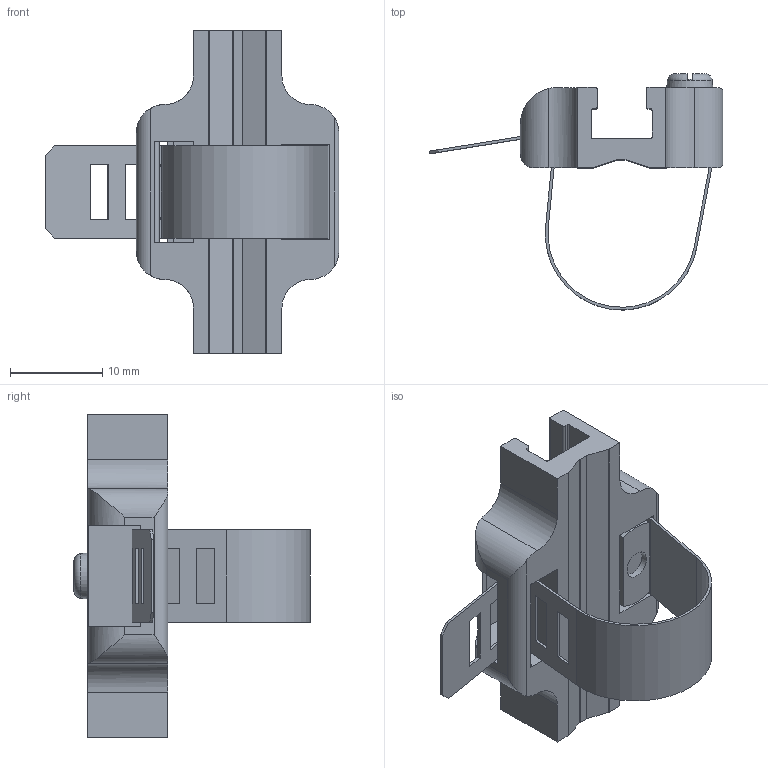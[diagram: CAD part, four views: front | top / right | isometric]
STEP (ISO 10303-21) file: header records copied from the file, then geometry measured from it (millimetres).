
FILE_DESCRIPTION( ( 'STEP AP214' ), ' ' );
FILE_NAME( 'p:/temp/worker_17/3336_884/app_42_02017120212580399745847192d056f_000000_00_00_000000/format_0/SICK BEF-KHZ-RT1-130-1-Bestell-Nr.2077684 (16).stp', '2017-12-02T11:58:04', ( '' ), ( '' ), ' ', 'PARTsolutions', ' ' );
FILE_SCHEMA( ( 'AUTOMOTIVE_DESIGN { 1 0 10303 214 1 1 1 1 }' ) );
Length unit declared in the file: millimetre
Products named in the file (1): _SICK BEF-KHZ-RT1-130-1-Bestell-Nr.2077684 (16)
Bounding box: 31.92 x 25.65 x 35 mm (x, y, z)
Volume: 3026.8 mm3; surface area: 4185.6 mm2
Topology: 1 solids, 1 shells, 134 faces, 381 edges, 252 vertices
Faces by surface type: plane 87, cylinder 45, cone 1, torus 1
Full cylindrical faces by diameter (mm): 3 x2, 3.2 x1
Entity records: 5512 total; most frequent: CARTESIAN_POINT 883, ORIENTED_EDGE 748, DIRECTION 720, EDGE_CURVE 374, LINE 270, VECTOR 270, VERTEX_POINT 250, AXIS2_PLACEMENT_3D 225
